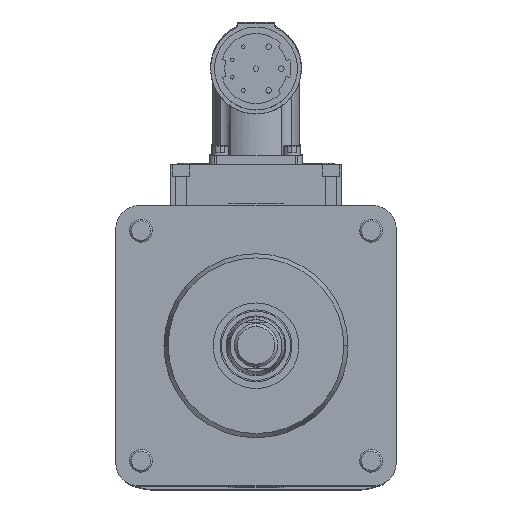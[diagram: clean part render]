
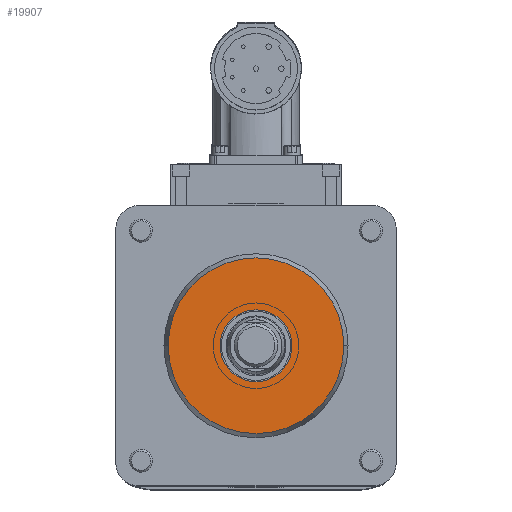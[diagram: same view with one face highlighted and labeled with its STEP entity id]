
A CAD part, top view. The second image highlights one B-rep face of the part: STEP entity #19907.
In plain terms, the highlighted planar face has unit normal (0, 0, 1).
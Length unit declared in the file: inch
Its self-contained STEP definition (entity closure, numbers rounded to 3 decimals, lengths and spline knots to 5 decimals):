
#21 = VERTEX_POINT ( 'NONE', #11555 ) ;
#36 = EDGE_CURVE ( 'NONE', #21, #37, #11584, .T. ) ;
#37 = VERTEX_POINT ( 'NONE', #11579 ) ;
#63 = VERTEX_POINT ( 'NONE', #11658 ) ;
#72 = EDGE_CURVE ( 'NONE', #75, #63, #11703, .T. ) ;
#75 = VERTEX_POINT ( 'NONE', #11695 ) ;
#11555 = CARTESIAN_POINT ( 'NONE',  ( 0.9545, 0., 0. ) ) ;
#11579 = CARTESIAN_POINT ( 'NONE',  ( -0.9545, 0., 0. ) ) ;
#11580 = DIRECTION ( 'NONE',  ( 1., 0., 0. ) ) ;
#11581 = DIRECTION ( 'NONE',  ( 0., 0., 1. ) ) ;
#11582 = CARTESIAN_POINT ( 'NONE',  ( 0., 0., 0. ) ) ;
#11583 = AXIS2_PLACEMENT_3D ( 'NONE', #11582, #11581, #11580 ) ;
#11584 = CIRCLE ( 'NONE', #11583, 0.9545 ) ;
#11636 = CARTESIAN_POINT ( 'NONE',  ( 0., 0., 0. ) ) ;
#11658 = CARTESIAN_POINT ( 'NONE',  ( 0.39, 0., 0. ) ) ;
#11695 = CARTESIAN_POINT ( 'NONE',  ( -0.39, 0., 0. ) ) ;
#11700 = DIRECTION ( 'NONE',  ( 1., 0., 0. ) ) ;
#11701 = DIRECTION ( 'NONE',  ( 0., 0., 1. ) ) ;
#11702 = AXIS2_PLACEMENT_3D ( 'NONE', #11636, #11701, #11700 ) ;
#11703 = CIRCLE ( 'NONE', #11702, 0.39 ) ;
#19907 = ADVANCED_FACE ( 'NONE', ( #23427, #23426 ), #23425, .T. ) ;
#19908 = EDGE_LOOP ( 'NONE', ( #19909, #19911 ) ) ;
#19909 = ORIENTED_EDGE ( 'NONE', *, *, #19910, .T. ) ;
#19910 = EDGE_CURVE ( 'NONE', #37, #21, #23423, .T. ) ;
#19911 = ORIENTED_EDGE ( 'NONE', *, *, #36, .T. ) ;
#19912 = EDGE_LOOP ( 'NONE', ( #19913, #19915 ) ) ;
#19913 = ORIENTED_EDGE ( 'NONE', *, *, #19914, .F. ) ;
#19914 = EDGE_CURVE ( 'NONE', #63, #75, #23414, .T. ) ;
#19915 = ORIENTED_EDGE ( 'NONE', *, *, #72, .F. ) ;
#23410 = DIRECTION ( 'NONE',  ( 1., 0., 0. ) ) ;
#23411 = DIRECTION ( 'NONE',  ( 0., 0., 1. ) ) ;
#23412 = CARTESIAN_POINT ( 'NONE',  ( 0., 0., 0. ) ) ;
#23413 = AXIS2_PLACEMENT_3D ( 'NONE', #23412, #23411, #23410 ) ;
#23414 = CIRCLE ( 'NONE', #23413, 0.39 ) ;
#23416 = DIRECTION ( 'NONE',  ( 1., 0., 0. ) ) ;
#23417 = DIRECTION ( 'NONE',  ( 0., 0., 1. ) ) ;
#23418 = CARTESIAN_POINT ( 'NONE',  ( 0., 0., 0. ) ) ;
#23419 = AXIS2_PLACEMENT_3D ( 'NONE', #23418, #23417, #23416 ) ;
#23420 = DIRECTION ( 'NONE',  ( 1., 0., 0. ) ) ;
#23421 = DIRECTION ( 'NONE',  ( 0., 0., 1. ) ) ;
#23422 = AXIS2_PLACEMENT_3D ( 'NONE', #23424, #23421, #23420 ) ;
#23423 = CIRCLE ( 'NONE', #23419, 0.9545 ) ;
#23424 = CARTESIAN_POINT ( 'NONE',  ( -1.273, 1.273, 0. ) ) ;
#23425 = PLANE ( 'NONE',  #23422 ) ;
#23426 = FACE_BOUND ( 'NONE', #19912, .T. ) ;
#23427 = FACE_OUTER_BOUND ( 'NONE', #19908, .T. ) ;
